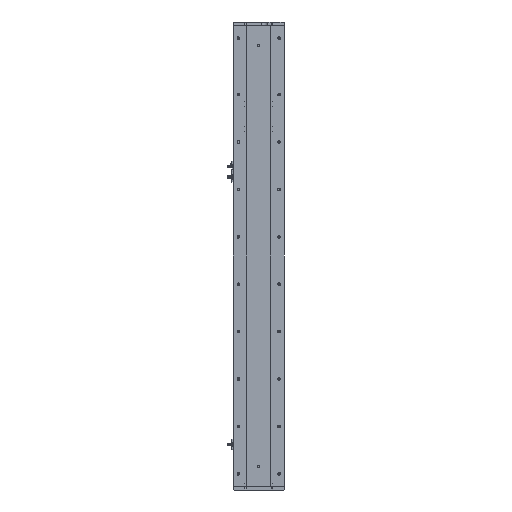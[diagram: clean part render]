
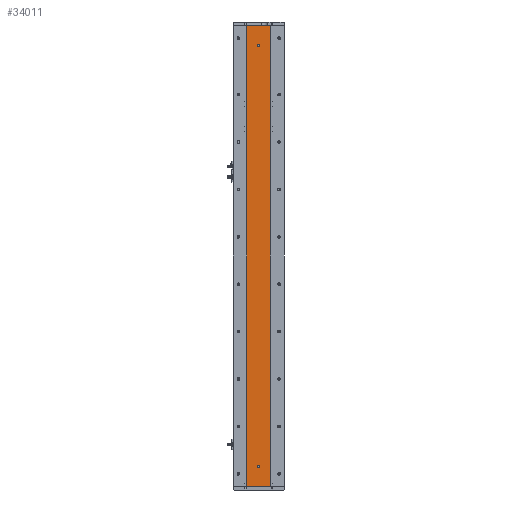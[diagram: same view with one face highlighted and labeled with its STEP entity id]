
A CAD part, left-side view. The second image highlights one B-rep face of the part: STEP entity #34011.
In plain terms, the highlighted planar face has unit normal (-1, 0, 0).
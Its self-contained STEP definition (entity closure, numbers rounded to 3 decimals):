
#196 = CIRCLE ( 'NONE', #3550, 3. ) ;
#364 = PLANE ( 'NONE',  #35440 ) ;
#401 = VERTEX_POINT ( 'NONE', #21060 ) ;
#751 = EDGE_CURVE ( 'NONE', #14501, #837, #196, .T. ) ;
#837 = VERTEX_POINT ( 'NONE', #8910 ) ;
#1334 = VECTOR ( 'NONE', #30434, 1000. ) ;
#2247 = LINE ( 'NONE', #36182, #1334 ) ;
#2440 = EDGE_CURVE ( 'NONE', #837, #14501, #25133, .T. ) ;
#2654 = CARTESIAN_POINT ( 'NONE',  ( -24.994, 29.785, 0. ) ) ;
#2813 = CARTESIAN_POINT ( 'NONE',  ( -24.994, -29.785, 1165. ) ) ;
#3550 = AXIS2_PLACEMENT_3D ( 'NONE', #31608, #14120, #34556 ) ;
#6412 = FACE_BOUND ( 'NONE', #25278, .T. ) ;
#6591 = LINE ( 'NONE', #19932, #18044 ) ;
#6949 = DIRECTION ( 'NONE',  ( -1., 0., 0. ) ) ;
#7285 = ORIENTED_EDGE ( 'NONE', *, *, #26692, .T. ) ;
#7327 = AXIS2_PLACEMENT_3D ( 'NONE', #24409, #6949, #27333 ) ;
#8766 = CARTESIAN_POINT ( 'NONE',  ( -24.994, 29.785, 0. ) ) ;
#8910 = CARTESIAN_POINT ( 'NONE',  ( -24.994, 0., 1112. ) ) ;
#10916 = CIRCLE ( 'NONE', #13963, 3. ) ;
#10933 = DIRECTION ( 'NONE',  ( -1., 0., 0. ) ) ;
#11005 = EDGE_CURVE ( 'NONE', #16190, #14346, #2247, .T. ) ;
#11142 = ORIENTED_EDGE ( 'NONE', *, *, #21757, .F. ) ;
#11630 = ORIENTED_EDGE ( 'NONE', *, *, #2440, .F. ) ;
#13271 = FACE_BOUND ( 'NONE', #19501, .T. ) ;
#13963 = AXIS2_PLACEMENT_3D ( 'NONE', #28331, #10933, #31297 ) ;
#14120 = DIRECTION ( 'NONE',  ( -1., 0., 0. ) ) ;
#14163 = EDGE_LOOP ( 'NONE', ( #31818, #37786, #14987, #7285 ) ) ;
#14281 = LINE ( 'NONE', #2654, #36661 ) ;
#14346 = VERTEX_POINT ( 'NONE', #2813 ) ;
#14501 = VERTEX_POINT ( 'NONE', #21305 ) ;
#14987 = ORIENTED_EDGE ( 'NONE', *, *, #11005, .F. ) ;
#15033 = DIRECTION ( 'NONE',  ( 1., 0., 0. ) ) ;
#15051 = CARTESIAN_POINT ( 'NONE',  ( -24.994, 29.785, 1165. ) ) ;
#15573 = CARTESIAN_POINT ( 'NONE',  ( -24.994, 0., 50. ) ) ;
#16190 = VERTEX_POINT ( 'NONE', #15051 ) ;
#17600 = VERTEX_POINT ( 'NONE', #36803 ) ;
#18044 = VECTOR ( 'NONE', #37438, 1000. ) ;
#18516 = DIRECTION ( 'NONE',  ( 0., 0., 1. ) ) ;
#19391 = CARTESIAN_POINT ( 'NONE',  ( -24.994, -29.785, 1165. ) ) ;
#19501 = EDGE_LOOP ( 'NONE', ( #23663, #11630 ) ) ;
#19932 = CARTESIAN_POINT ( 'NONE',  ( -24.994, 29.785, 1165. ) ) ;
#20142 = DIRECTION ( 'NONE',  ( 0., -1., 0. ) ) ;
#21060 = CARTESIAN_POINT ( 'NONE',  ( -24.994, 0., 53. ) ) ;
#21305 = CARTESIAN_POINT ( 'NONE',  ( -24.994, 0., 1118. ) ) ;
#21757 = EDGE_CURVE ( 'NONE', #35574, #401, #10916, .T. ) ;
#22605 = LINE ( 'NONE', #19391, #37230 ) ;
#23663 = ORIENTED_EDGE ( 'NONE', *, *, #751, .F. ) ;
#24409 = CARTESIAN_POINT ( 'NONE',  ( -24.994, 0., 1115. ) ) ;
#25133 = CIRCLE ( 'NONE', #7327, 3. ) ;
#25278 = EDGE_LOOP ( 'NONE', ( #29437, #11142 ) ) ;
#25526 = DIRECTION ( 'NONE',  ( 0., 0., -1. ) ) ;
#26692 = EDGE_CURVE ( 'NONE', #16190, #33110, #6591, .T. ) ;
#26745 = CARTESIAN_POINT ( 'NONE',  ( -24.994, 0., 47. ) ) ;
#27311 = EDGE_CURVE ( 'NONE', #33110, #17600, #14281, .T. ) ;
#27333 = DIRECTION ( 'NONE',  ( 0., 0., 1. ) ) ;
#28331 = CARTESIAN_POINT ( 'NONE',  ( -24.994, 0., 50. ) ) ;
#28762 = FACE_OUTER_BOUND ( 'NONE', #14163, .T. ) ;
#29437 = ORIENTED_EDGE ( 'NONE', *, *, #33575, .F. ) ;
#30434 = DIRECTION ( 'NONE',  ( 0., -1., 0. ) ) ;
#31297 = DIRECTION ( 'NONE',  ( 0., 0., 1. ) ) ;
#31608 = CARTESIAN_POINT ( 'NONE',  ( -24.994, 0., 1115. ) ) ;
#31818 = ORIENTED_EDGE ( 'NONE', *, *, #27311, .T. ) ;
#32418 = EDGE_CURVE ( 'NONE', #14346, #17600, #22605, .T. ) ;
#32522 = CARTESIAN_POINT ( 'NONE',  ( -24.994, 29.785, 1165. ) ) ;
#32525 = CIRCLE ( 'NONE', #33709, 3. ) ;
#33110 = VERTEX_POINT ( 'NONE', #8766 ) ;
#33575 = EDGE_CURVE ( 'NONE', #401, #35574, #32525, .T. ) ;
#33709 = AXIS2_PLACEMENT_3D ( 'NONE', #15573, #36003, #18516 ) ;
#34011 = ADVANCED_FACE ( 'NONE', ( #13271, #6412, #28762 ), #364, .F. ) ;
#34556 = DIRECTION ( 'NONE',  ( 0., 0., 1. ) ) ;
#35440 = AXIS2_PLACEMENT_3D ( 'NONE', #32522, #15033, #35458 ) ;
#35458 = DIRECTION ( 'NONE',  ( 0., 0., -1. ) ) ;
#35574 = VERTEX_POINT ( 'NONE', #26745 ) ;
#36003 = DIRECTION ( 'NONE',  ( -1., 0., 0. ) ) ;
#36182 = CARTESIAN_POINT ( 'NONE',  ( -24.994, 29.785, 1165. ) ) ;
#36661 = VECTOR ( 'NONE', #20142, 1000. ) ;
#36803 = CARTESIAN_POINT ( 'NONE',  ( -24.994, -29.785, 0. ) ) ;
#37230 = VECTOR ( 'NONE', #25526, 1000. ) ;
#37438 = DIRECTION ( 'NONE',  ( 0., 0., -1. ) ) ;
#37786 = ORIENTED_EDGE ( 'NONE', *, *, #32418, .F. ) ;
